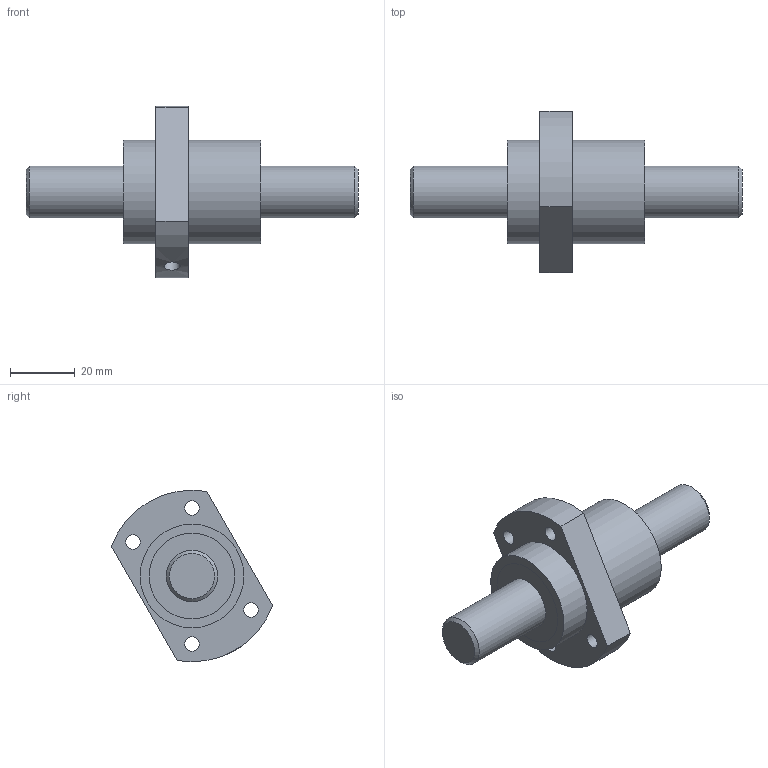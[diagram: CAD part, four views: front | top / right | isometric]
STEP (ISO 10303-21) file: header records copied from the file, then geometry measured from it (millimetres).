
FILE_DESCRIPTION (( 'STEP AP203' ), '1' );
FILE_NAME ('SFYA1632-1.6.STEP', '2023-05-24T05:35:30', ( '' ), ( '' ), 'SwSTEP 2.0', 'SolidWorks 2022', '' );
FILE_SCHEMA (( 'CONFIG_CONTROL_DESIGN' ));
Length unit declared in the file: millimetre
Products named in the file (1): SFYA1632-1.6
Bounding box: 102.5 x 49.77 x 53 mm (x, y, z)
Volume: 53981.5 mm3; surface area: 19976.7 mm2
Topology: 4 solids, 4 shells, 51 faces, 98 edges, 68 vertices
Faces by surface type: cylinder 26, plane 23, cone 2
Full cylindrical faces by diameter (mm): 3 x1, 4.5 x4, 5 x1, 16 x4, 26 x4, 26.5 x4, 28 x4, 32 x2
Entity records: 1334 total; most frequent: CARTESIAN_POINT 299, DIRECTION 216, ORIENTED_EDGE 124, EDGE_LOOP 106, AXIS2_PLACEMENT_3D 104, FACE_OUTER_BOUND 75, EDGE_CURVE 62, VERTEX_POINT 58
